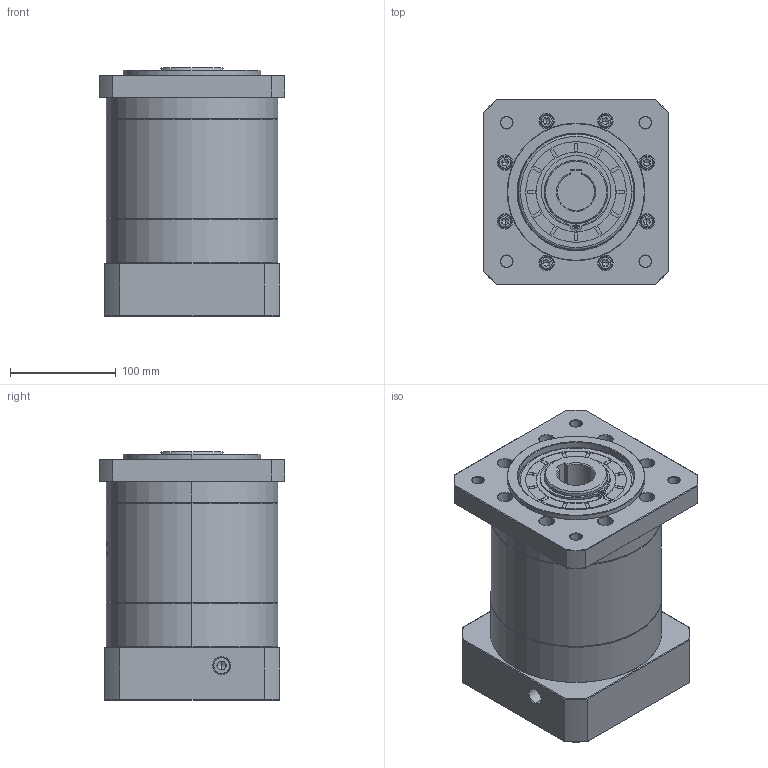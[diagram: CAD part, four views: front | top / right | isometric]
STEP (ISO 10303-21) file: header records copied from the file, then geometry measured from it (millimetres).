
FILE_DESCRIPTION (( 'STEP AP214' ), '1' );
FILE_NAME ('ZF160-K35-L2-28-130-174-M10.step', '2023-03-21T04:32:30', ( '' ), ( '' ), 'SwSTEP 2.0', 'SolidWorks 2016', '' );
FILE_SCHEMA (( 'AUTOMOTIVE_DESIGN' ));
Length unit declared in the file: millimetre
Products named in the file (1): ZF160-K35-L2-28-130-174-M10
Bounding box: 175 x 175 x 234.2 mm (x, y, z)
Volume: 4741992.2 mm3; surface area: 342925 mm2
Topology: 6 solids, 6 shells, 1577 faces, 4104 edges, 2630 vertices
Faces by surface type: plane 637, cylinder 389, cone 320, bspline 211, torus 20
Entity records: 86460 total; most frequent: CARTESIAN_POINT 32498, ORIENTED_EDGE 8152, DIRECTION 6945, EDGE_CURVE 4076, VERTEX_POINT 2630, AXIS2_PLACEMENT_3D 2405, LINE 2135, VECTOR 2135
